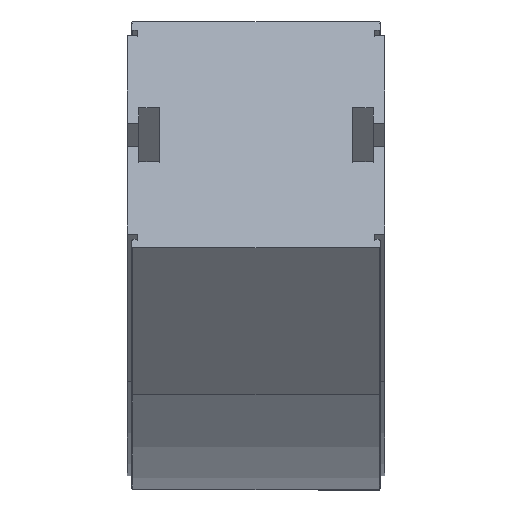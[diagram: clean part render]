
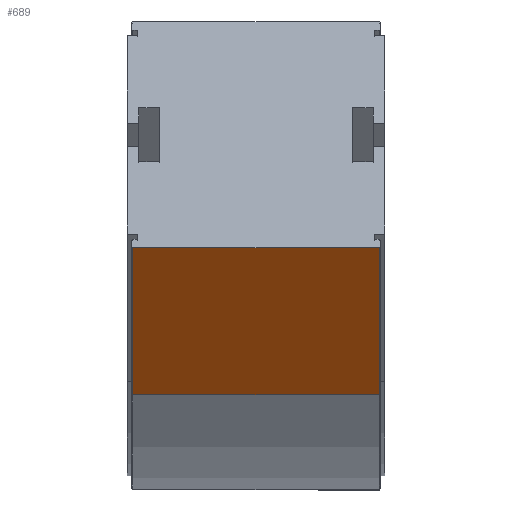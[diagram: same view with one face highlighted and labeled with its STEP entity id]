
A CAD part, top view. The second image highlights one B-rep face of the part: STEP entity #689.
In plain terms, the highlighted planar face has unit normal (0, -0.94, 0.342).
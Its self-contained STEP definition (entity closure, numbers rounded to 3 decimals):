
#208 = CARTESIAN_POINT ( 'NONE',  ( 43.15, 41.99, 476.329 ) ) ;
#211 = CARTESIAN_POINT ( 'NONE',  ( -43.15, 41.99, 476.329 ) ) ;
#218 = CARTESIAN_POINT ( 'NONE',  ( -43.15, -9.313, 335.375 ) ) ;
#243 = CARTESIAN_POINT ( 'NONE',  ( 43.15, -9.313, 335.375 ) ) ;
#377 = VECTOR ( 'NONE', #2229, 1000. ) ;
#380 = LINE ( 'NONE', #2228, #377 ) ;
#389 = VECTOR ( 'NONE', #2217, 1000. ) ;
#392 = LINE ( 'NONE', #2216, #389 ) ;
#393 = VECTOR ( 'NONE', #2213, 1000. ) ;
#396 = LINE ( 'NONE', #2212, #393 ) ;
#452 = VECTOR ( 'NONE', #2107, 1000. ) ;
#455 = LINE ( 'NONE', #2106, #452 ) ;
#689 = ADVANCED_FACE ( 'NONE', ( #1438 ), #2442, .F. ) ;
#996 = AXIS2_PLACEMENT_3D ( 'NONE', #2443, #2448, #2449 ) ;
#1088 = EDGE_CURVE ( 'NONE', #3046, #3049, #455, .T. ) ;
#1129 = EDGE_CURVE ( 'NONE', #3081, #3046, #396, .T. ) ;
#1131 = EDGE_CURVE ( 'NONE', #3081, #3056, #392, .T. ) ;
#1137 = EDGE_CURVE ( 'NONE', #3056, #3049, #380, .T. ) ;
#1438 = FACE_OUTER_BOUND ( 'NONE', #1817, .T. ) ;
#1553 = ORIENTED_EDGE ( 'NONE', *, *, #1131, .F. ) ;
#1554 = ORIENTED_EDGE ( 'NONE', *, *, #1129, .T. ) ;
#1555 = ORIENTED_EDGE ( 'NONE', *, *, #1088, .T. ) ;
#1556 = ORIENTED_EDGE ( 'NONE', *, *, #1137, .F. ) ;
#1817 = EDGE_LOOP ( 'NONE', ( #1553, #1554, #1555, #1556 ) ) ;
#2106 = CARTESIAN_POINT ( 'NONE',  ( -43.15, 41.99, 476.329 ) ) ;
#2107 = DIRECTION ( 'NONE',  ( -1., 0., 0. ) ) ;
#2212 = CARTESIAN_POINT ( 'NONE',  ( 43.15, -9.313, 335.375 ) ) ;
#2213 = DIRECTION ( 'NONE',  ( 0., 0.342, 0.94 ) ) ;
#2216 = CARTESIAN_POINT ( 'NONE',  ( -43.15, -9.313, 335.375 ) ) ;
#2217 = DIRECTION ( 'NONE',  ( -1., 0., 0. ) ) ;
#2228 = CARTESIAN_POINT ( 'NONE',  ( -43.15, -9.313, 335.375 ) ) ;
#2229 = DIRECTION ( 'NONE',  ( 0., 0.342, 0.94 ) ) ;
#2442 = PLANE ( 'NONE',  #996 ) ;
#2443 = CARTESIAN_POINT ( 'NONE',  ( -43.15, -9.313, 335.375 ) ) ;
#2448 = DIRECTION ( 'NONE',  ( 0., 0.94, -0.342 ) ) ;
#2449 = DIRECTION ( 'NONE',  ( 0., 0.342, 0.94 ) ) ;
#3046 = VERTEX_POINT ( 'NONE', #208 ) ;
#3049 = VERTEX_POINT ( 'NONE', #211 ) ;
#3056 = VERTEX_POINT ( 'NONE', #218 ) ;
#3081 = VERTEX_POINT ( 'NONE', #243 ) ;
